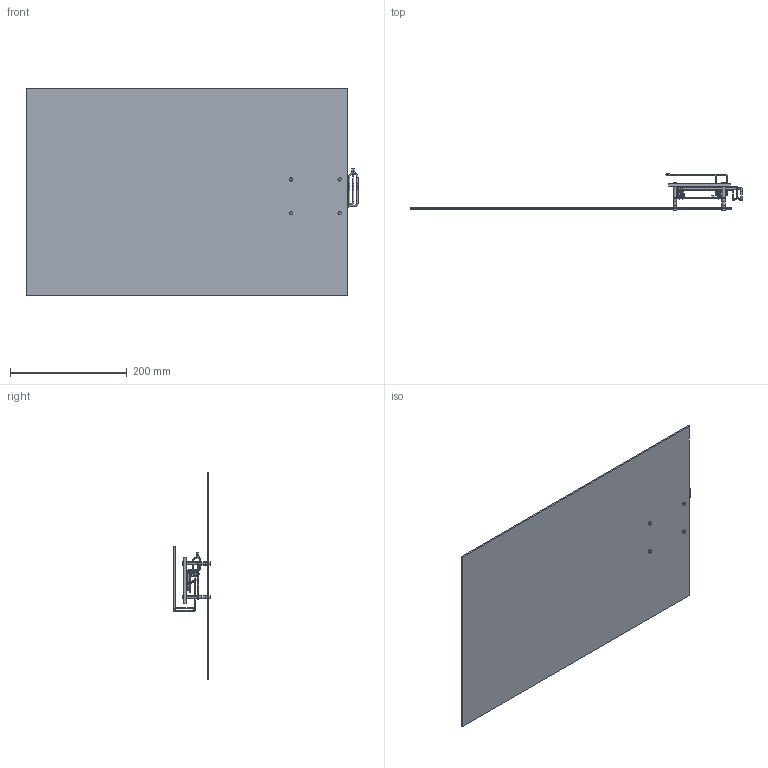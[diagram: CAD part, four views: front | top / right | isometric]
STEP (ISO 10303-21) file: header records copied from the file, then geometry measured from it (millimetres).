
FILE_DESCRIPTION(('Open CASCADE Model'),'2;1');
FILE_NAME('Open CASCADE Shape Model','2026-10-07T05:52:56',('Author'),( 'Open CASCADE'),'Open CASCADE STEP processor 7.7','Open CASCADE 7.7' ,'Unknown');
FILE_SCHEMA(('AUTOMOTIVE_DESIGN { 1 0 10303 214 1 1 1 1 }'));
Length unit declared in the file: millimetre
Products named in the file (56): M02_MON01_R02_FIVE_TAILS_HOLD; MON01_SUBSTRATE; MON01_SUBSTRATE_part; MON01_J1_FACTORY; MON01_J1_FACTORY_part; MON01_J2_FACTORY; MON01_J2_FACTORY_part; H1_BOARD_POST; H1_BOARD_POST_part; H1_COVER_POST; H1_COVER_POST_part; H2_BOARD_POST; H2_BOARD_POST_part; H2_COVER_POST; H2_COVER_POST_part; H3_BOARD_POST; H3_BOARD_POST_part; H3_COVER_POST; H3_COVER_POST_part; H4_BOARD_POST; H4_BOARD_POST_part; H4_COVER_POST; H4_COVER_POST_part; H1_M3X30; H1_M3X30_part; H1_M3X6; H1_M3X6_part; H2_M3X30; H2_M3X30_part; H2_M3X6; H2_M3X6_part; H3_M3X30; H3_M3X30_part; H3_M3X6; H3_M3X6_part; H4_M3X30; H4_M3X30_part; H4_M3X6; H4_M3X6_part; MON01_COVER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
Assembly tree (55 placements, depth 4):
  M02_MON01_R02_FIVE_TAILS_HOLD
    M02_MON01_R02_FIVE_TAILS_HOLD
      MON01_SUBSTRATE
        MON01_SUBSTRATE_part
      MON01_J1_FACTORY
        MON01_J1_FACTORY_part
      MON01_J2_FACTORY
        MON01_J2_FACTORY_part
      H1_BOARD_POST
        H1_BOARD_POST_part
      H1_COVER_POST
        H1_COVER_POST_part
      H2_BOARD_POST
        H2_BOARD_POST_part
      H2_COVER_POST
        H2_COVER_POST_part
      H3_BOARD_POST
        H3_BOARD_POST_part
      H3_COVER_POST
        H3_COVER_POST_part
      H4_BOARD_POST
        H4_BOARD_POST_part
      H4_COVER_POST
        H4_COVER_POST_part
      H1_M3X30
        H1_M3X30_part
      H1_M3X6
        H1_M3X6_part
      H2_M3X30
        H2_M3X30_part
      H2_M3X6
        H2_M3X6_part
      H3_M3X30
        H3_M3X30_part
      H3_M3X6
        H3_M3X6_part
      H4_M3X30
        H4_M3X30_part
      H4_M3X6
        H4_M3X6_part
      MON01_COVER
        MON01_COVER_part
      M02_PLATE_CONTEXT
        M02_PLATE_CONTEXT_part
      D2_R02_PROJECT_COURTYARD_3MM
        D2_R02_PROJECT_COURTYARD_3MM_part
      E37_white
        E37_white_part
      E37_brown
        E37_brown_part
      E37_green
        E37_green_part
      E36_white
        E36_white_part
      E36_brown
        E36_brown_part
Bounding box: 568 x 61.8 x 355 mm (x, y, z)
Volume: 539493.4 mm3; surface area: 443984.1 mm2
Topology: 42 solids, 42 shells, 1640 faces, 4306 edges, 2818 vertices
Faces by surface type: plane 1275, cylinder 295, bspline 36, torus 34
Full cylindrical faces by diameter (mm): 0.2 x6, 0.3 x27, 1.3 x5, 1.6 x8, 2 x33, 3 x8, 3.2 x12, 3.4 x4, 5 x4, 5.5 x12
Entity records: 111747 total; most frequent: CARTESIAN_POINT 23425, DIRECTION 16267, LINE 11241, VECTOR 11241, ORIENTED_EDGE 8612, PCURVE 8612, DEFINITIONAL_REPRESENTATION 8612, EDGE_CURVE 4306
